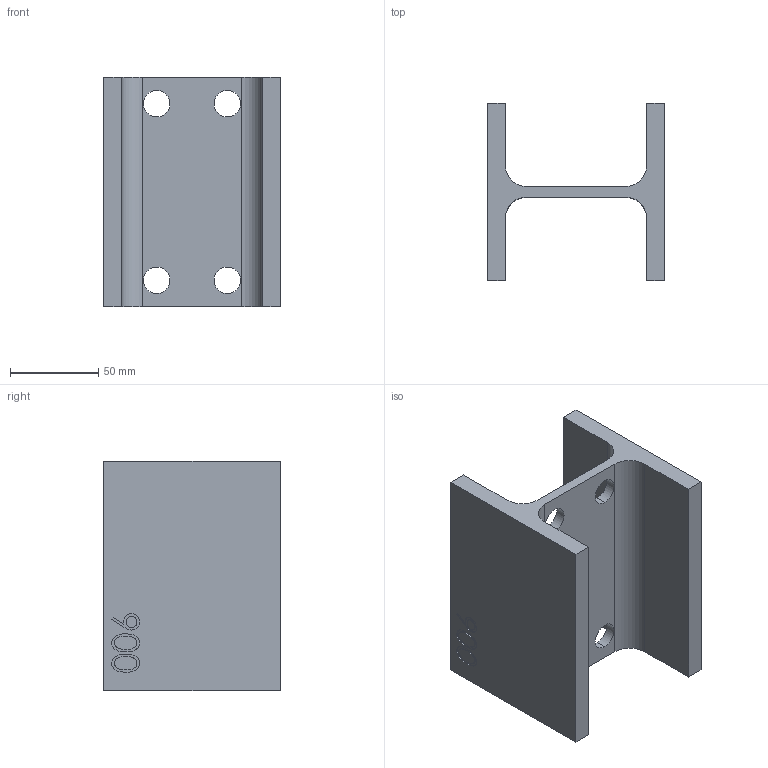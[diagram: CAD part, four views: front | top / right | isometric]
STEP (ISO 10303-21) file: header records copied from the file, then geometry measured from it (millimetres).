
FILE_DESCRIPTION (( 'STEP AP214' ), '1' );
FILE_NAME ('CCJ029-REP.006 - INTERFACE POTEAU PLATEFORME TYPE 2.STEP', '2025-02-13T07:48:46', ( '' ), ( '' ), 'SwSTEP 2.0', 'SolidWorks 2021', '' );
FILE_SCHEMA (( 'AUTOMOTIVE_DESIGN' ));
Length unit declared in the file: millimetre
Products named in the file (1): CCJ029-REP.006 - INTERFACE POTEAU PLATEFORME TYPE 2
Bounding box: 100 x 100 x 130 mm (x, y, z)
Volume: 334151 mm3; surface area: 78793.5 mm2
Topology: 1 solids, 1 shells, 62 faces, 162 edges, 108 vertices
Faces by surface type: bspline 27, plane 23, cylinder 12
Entity records: 3874 total; most frequent: CARTESIAN_POINT 2456, ORIENTED_EDGE 324, DIRECTION 204, EDGE_CURVE 162, VERTEX_POINT 108, LINE 84, VECTOR 84, EDGE_LOOP 76
